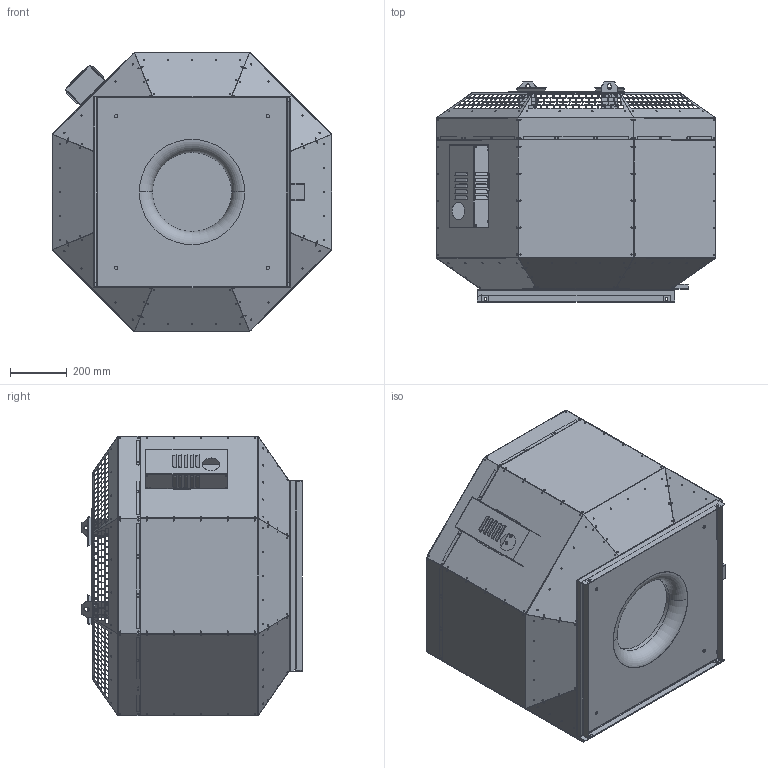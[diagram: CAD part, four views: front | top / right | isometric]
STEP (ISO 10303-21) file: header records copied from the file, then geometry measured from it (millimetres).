
FILE_DESCRIPTION (( 'STEP AP203' ), '1' );
FILE_NAME ('144622-00_DVNI450D4F430_step.step', '2018-07-31T13:10:45', ( '' ), ( '' ), 'SwSTEP 2.0', 'SolidWorks 2017', '' );
FILE_SCHEMA (( 'CONFIG_CONTROL_DESIGN' ));
Length unit declared in the file: millimetre
Products named in the file (1): 144622-00_DVNI450D4F430_step
Bounding box: 984.02 x 776.32 x 984.02 mm (x, y, z)
Surface area: 7128081.8 mm2 (no closed solid volume)
Topology: 0 solids, 47 shells, 1586 faces, 12003 edges, 9771 vertices
Faces by surface type: plane 1259, cylinder 285, bspline 40, torus 2
Entity records: 130805 total; most frequent: CARTESIAN_POINT 40146, DIRECTION 16590, ORIENTED_EDGE 15415, EDGE_CURVE 12003, LINE 9838, VECTOR 9838, VERTEX_POINT 9771, EDGE_LOOP 4188
